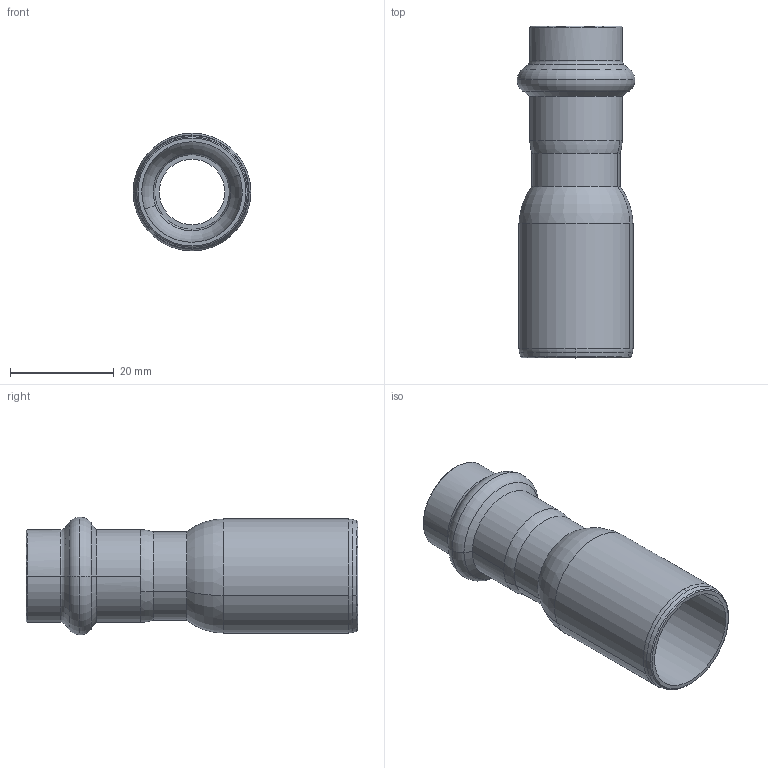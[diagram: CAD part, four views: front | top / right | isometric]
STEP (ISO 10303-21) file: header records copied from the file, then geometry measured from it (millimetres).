
FILE_DESCRIPTION(('CoCreate Modeling STEP Export'),'2;1');
FILE_NAME('8243VW2215.stp','2013-03-05T 9:22:50',(''),(''),'CoCreate Modeling STEP processor for AP214 (Solid Model)','CoCreate Modeling 17.00A 17-Jun-2010 (C) Parametric Technology GmbH','');
FILE_SCHEMA(('AUTOMOTIVE_DESIGN { 1 0 10303 214 1 1 1 1 }'));
Length unit declared in the file: millimetre
Products named in the file (1): 8243VW2215
Bounding box: 22.69 x 64.01 x 22.69 mm (x, y, z)
Volume: 5535.5 mm3; surface area: 7879 mm2
Topology: 1 solids, 1 shells, 58 faces, 133 edges, 79 vertices
Faces by surface type: torus 22, cylinder 18, cone 14, plane 4
Entity records: 1312 total; most frequent: ORIENTED_EDGE 266, DIRECTION 200, CARTESIAN_POINT 195, EDGE_CURVE 133, AXIS2_PLACEMENT_3D 84, VERTEX_POINT 79, EDGE_LOOP 62, FACE_OUTER_BOUND 58
